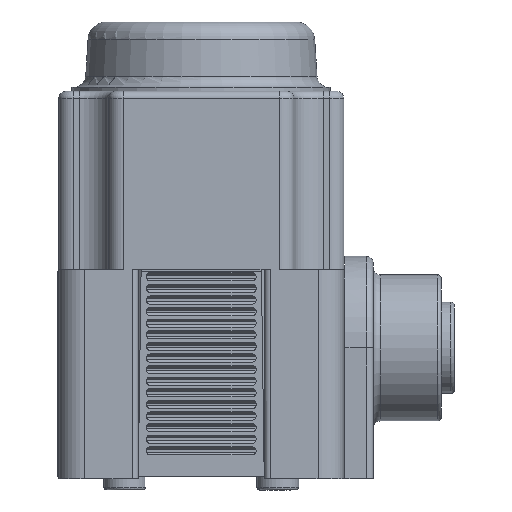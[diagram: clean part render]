
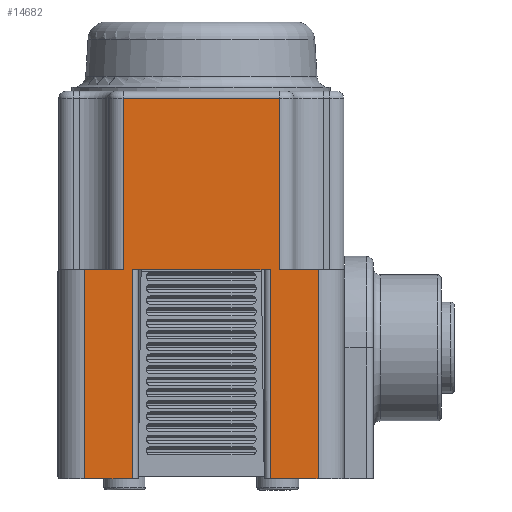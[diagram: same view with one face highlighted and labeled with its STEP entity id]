
A CAD part, left-side view. The second image highlights one B-rep face of the part: STEP entity #14682.
In plain terms, the highlighted planar face has unit normal (-1, 0, 0).
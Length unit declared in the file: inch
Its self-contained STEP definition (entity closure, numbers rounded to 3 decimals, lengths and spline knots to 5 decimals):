
#857=PLANE('',#16237);
#1627=FACE_OUTER_BOUND('',#2511,.T.);
#2511=EDGE_LOOP('',(#12679,#12680,#12681,#12682,#12683,#12684,#12685,#12686,
#12687,#12688,#12689,#12690));
#4180=LINE('',#26335,#5178);
#4193=LINE('',#26405,#5191);
#4309=LINE('',#27978,#5307);
#4326=LINE('',#28037,#5324);
#4327=LINE('',#28041,#5325);
#4330=LINE('',#28060,#5328);
#4343=LINE('',#28136,#5341);
#4344=LINE('',#28140,#5342);
#4345=LINE('',#28141,#5343);
#4346=LINE('',#28143,#5344);
#4347=LINE('',#28145,#5345);
#4348=LINE('',#28146,#5346);
#5178=VECTOR('',#19690,0.3937);
#5191=VECTOR('',#19773,0.3937);
#5307=VECTOR('',#20083,0.3937);
#5324=VECTOR('',#20154,0.3937);
#5325=VECTOR('',#20159,0.3937);
#5328=VECTOR('',#20180,0.3937);
#5341=VECTOR('',#20281,0.3937);
#5342=VECTOR('',#20286,0.3937);
#5343=VECTOR('',#20287,0.3937);
#5344=VECTOR('',#20288,0.3937);
#5345=VECTOR('',#20289,0.3937);
#5346=VECTOR('',#20290,0.3937);
#6496=VERTEX_POINT('',#26327);
#6498=VERTEX_POINT('',#26333);
#6520=VERTEX_POINT('',#26403);
#6650=VERTEX_POINT('',#27975);
#6651=VERTEX_POINT('',#27977);
#6666=VERTEX_POINT('',#28036);
#6667=VERTEX_POINT('',#28040);
#6674=VERTEX_POINT('',#28058);
#6693=VERTEX_POINT('',#28135);
#6694=VERTEX_POINT('',#28139);
#6695=VERTEX_POINT('',#28142);
#6696=VERTEX_POINT('',#28144);
#8407=EDGE_CURVE('',#6498,#6496,#4180,.T.);
#8443=EDGE_CURVE('',#6520,#6498,#4193,.T.);
#8645=EDGE_CURVE('',#6651,#6650,#4309,.T.);
#8674=EDGE_CURVE('',#6666,#6496,#4326,.T.);
#8676=EDGE_CURVE('',#6667,#6666,#4327,.T.);
#8686=EDGE_CURVE('',#6520,#6674,#4330,.T.);
#8724=EDGE_CURVE('',#6693,#6651,#4343,.T.);
#8726=EDGE_CURVE('',#6694,#6674,#4344,.T.);
#8727=EDGE_CURVE('',#6693,#6694,#4345,.T.);
#8728=EDGE_CURVE('',#6695,#6650,#4346,.T.);
#8729=EDGE_CURVE('',#6695,#6696,#4347,.T.);
#8730=EDGE_CURVE('',#6696,#6667,#4348,.T.);
#12679=ORIENTED_EDGE('',*,*,#8407,.F.);
#12680=ORIENTED_EDGE('',*,*,#8443,.F.);
#12681=ORIENTED_EDGE('',*,*,#8686,.T.);
#12682=ORIENTED_EDGE('',*,*,#8726,.F.);
#12683=ORIENTED_EDGE('',*,*,#8727,.F.);
#12684=ORIENTED_EDGE('',*,*,#8724,.T.);
#12685=ORIENTED_EDGE('',*,*,#8645,.T.);
#12686=ORIENTED_EDGE('',*,*,#8728,.F.);
#12687=ORIENTED_EDGE('',*,*,#8729,.T.);
#12688=ORIENTED_EDGE('',*,*,#8730,.T.);
#12689=ORIENTED_EDGE('',*,*,#8676,.T.);
#12690=ORIENTED_EDGE('',*,*,#8674,.T.);
#14682=ADVANCED_FACE('',(#1627),#857,.T.);
#16237=AXIS2_PLACEMENT_3D('',#28138,#20284,#20285);
#19690=DIRECTION('',(0.,-1.,0.));
#19773=DIRECTION('',(0.,0.,1.));
#20083=DIRECTION('',(0.,-1.,0.));
#20154=DIRECTION('',(0.,0.,1.));
#20159=DIRECTION('',(0.,1.,0.));
#20180=DIRECTION('',(0.,1.,0.));
#20281=DIRECTION('',(0.,0.,1.));
#20284=DIRECTION('center_axis',(-1.,0.,0.));
#20285=DIRECTION('ref_axis',(0.,0.,1.));
#20286=DIRECTION('',(0.,0.,1.));
#20287=DIRECTION('',(0.,1.,0.));
#20288=DIRECTION('',(0.,0.,1.));
#20289=DIRECTION('',(0.,-1.,0.));
#20290=DIRECTION('',(0.,0.,1.));
#26327=CARTESIAN_POINT('',(-1.28452,-0.47602,0.6733));
#26333=CARTESIAN_POINT('',(-1.28452,0.19198,0.6733));
#26335=CARTESIAN_POINT('',(-1.28452,0.19198,0.6733));
#26403=CARTESIAN_POINT('',(-1.28452,0.19198,-0.0587));
#26405=CARTESIAN_POINT('',(-1.28452,0.19198,-0.0587));
#27975=CARTESIAN_POINT('',(-1.28452,-0.43602,-0.0587));
#27977=CARTESIAN_POINT('',(-1.28452,0.15198,-0.0587));
#27978=CARTESIAN_POINT('',(-1.28452,0.15198,-0.0587));
#28036=CARTESIAN_POINT('',(-1.28452,-0.47602,-0.0587));
#28037=CARTESIAN_POINT('',(-1.28452,-0.47602,-0.0587));
#28040=CARTESIAN_POINT('',(-1.28452,-0.64102,-0.0587));
#28041=CARTESIAN_POINT('',(-1.28452,-0.64102,-0.0587));
#28058=CARTESIAN_POINT('',(-1.28452,0.35698,-0.0587));
#28060=CARTESIAN_POINT('',(-1.28452,0.19198,-0.0587));
#28135=CARTESIAN_POINT('',(-1.28452,0.15198,-0.9527));
#28136=CARTESIAN_POINT('',(-1.28452,0.15198,-0.9527));
#28138=CARTESIAN_POINT('Origin',(-1.28452,-0.64141,-0.1397));
#28139=CARTESIAN_POINT('',(-1.28452,0.35698,-0.9527));
#28140=CARTESIAN_POINT('',(-1.28452,0.35698,-0.9527));
#28141=CARTESIAN_POINT('',(-1.28452,0.15198,-0.9527));
#28142=CARTESIAN_POINT('',(-1.28452,-0.43602,-0.9527));
#28143=CARTESIAN_POINT('',(-1.28452,-0.43602,-0.9527));
#28144=CARTESIAN_POINT('',(-1.28452,-0.64102,-0.9527));
#28145=CARTESIAN_POINT('',(-1.28452,-0.43602,-0.9527));
#28146=CARTESIAN_POINT('',(-1.28452,-0.64102,-0.9527));
